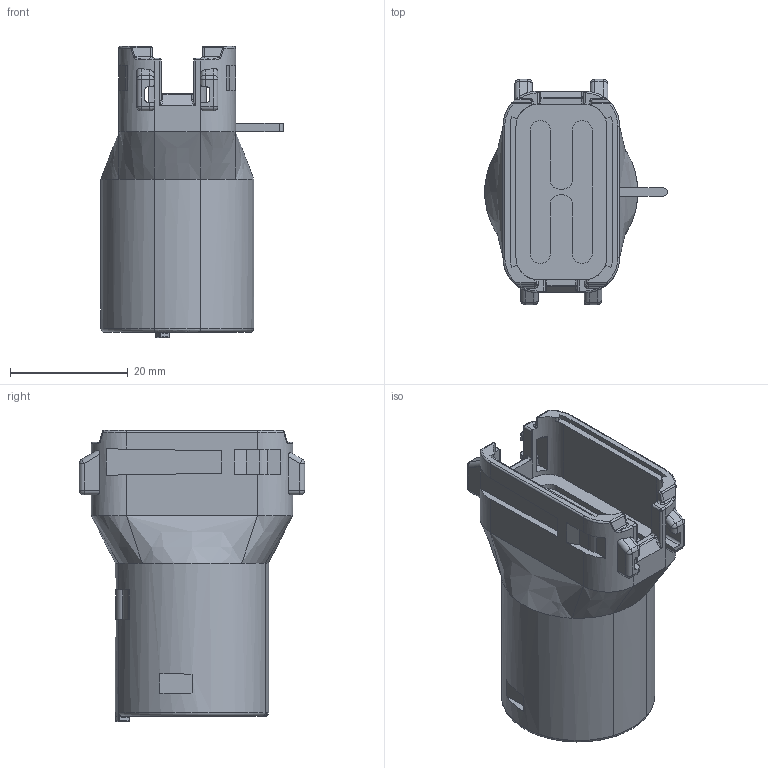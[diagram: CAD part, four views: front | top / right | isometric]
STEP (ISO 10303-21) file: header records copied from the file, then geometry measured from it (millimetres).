
FILE_DESCRIPTION((''),'2;1');
FILE_NAME('C-1028-015-1205','2013-01-22T',('workeradm'),('Tyco Electronics Ltd.'),'PRO/ENGINEER BY PARAMETRIC TECHNOLOGY CORPORATION, 2010430','PRO/ENGINEER BY PARAMETRIC TECHNOLOGY CORPORATION, 2010430','');
FILE_SCHEMA(('AUTOMOTIVE_DESIGN { 1 0 10303 214 1 1 1 1 }'));
Length unit declared in the file: millimetre
Products named in the file (1): C-1028-015-1205
Bounding box: 30.98 x 38.25 x 49.4 mm (x, y, z)
Volume: 21576.7 mm3; surface area: 6897.5 mm2
Topology: 1 solids, 1 shells, 356 faces, 896 edges, 542 vertices
Faces by surface type: plane 135, cylinder 130, bspline 43, sphere 30, torus 18
Entity records: 15340 total; most frequent: CARTESIAN_POINT 4035, ORIENTED_EDGE 1792, DIRECTION 1684, PRESENTATION_STYLE_ASSIGNMENT 897, STYLED_ITEM 897, CURVE_STYLE 896, EDGE_CURVE 896, AXIS2_PLACEMENT_3D 612
